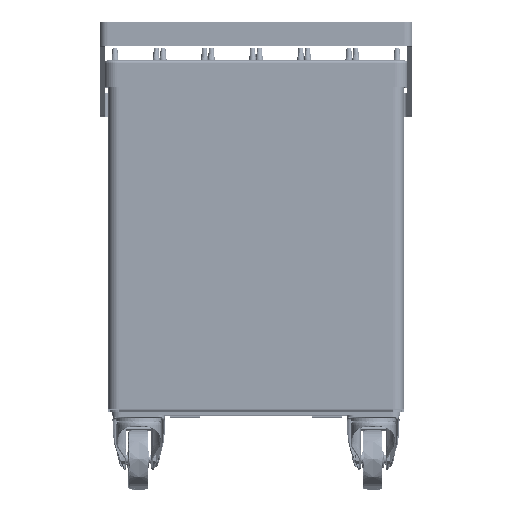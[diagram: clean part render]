
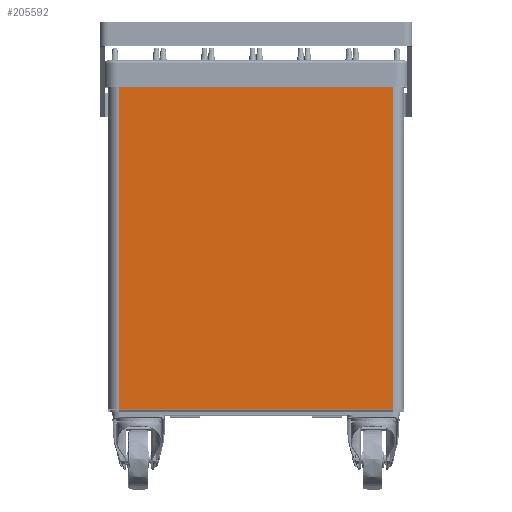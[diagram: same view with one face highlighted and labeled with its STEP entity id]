
A CAD part, top view. The second image highlights one B-rep face of the part: STEP entity #205592.
In plain terms, the highlighted planar face has unit normal (0, 0, 1).
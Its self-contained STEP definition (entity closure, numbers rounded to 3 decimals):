
#1048 = LINE ( 'NONE', #77880, #86331 ) ;
#1553 = EDGE_CURVE ( 'NONE', #139158, #221036, #87825, .T. ) ;
#8811 = CARTESIAN_POINT ( 'NONE',  ( 288.5, 850.5, 534.85 ) ) ;
#20852 = EDGE_LOOP ( 'NONE', ( #27572, #56983, #190086, #199905 ) ) ;
#26545 = PLANE ( 'NONE',  #166778 ) ;
#27309 = DIRECTION ( 'NONE',  ( 0., -1., 0. ) ) ;
#27572 = ORIENTED_EDGE ( 'NONE', *, *, #80757, .T. ) ;
#28051 = CARTESIAN_POINT ( 'NONE',  ( -288.5, 858., 534.85 ) ) ;
#29218 = VECTOR ( 'NONE', #27309, 1000. ) ;
#51941 = LINE ( 'NONE', #137784, #198662 ) ;
#56983 = ORIENTED_EDGE ( 'NONE', *, *, #1553, .T. ) ;
#76997 = CARTESIAN_POINT ( 'NONE',  ( -288.5, 168.5, 534.85 ) ) ;
#77880 = CARTESIAN_POINT ( 'NONE',  ( 288.5, 850.5, 534.85 ) ) ;
#80757 = EDGE_CURVE ( 'NONE', #215172, #139158, #1048, .T. ) ;
#86331 = VECTOR ( 'NONE', #146464, 1000. ) ;
#87825 = LINE ( 'NONE', #28051, #29218 ) ;
#92594 = CARTESIAN_POINT ( 'NONE',  ( 288.5, 168.5, 534.85 ) ) ;
#95798 = DIRECTION ( 'NONE',  ( -1., 0., 0. ) ) ;
#96551 = CARTESIAN_POINT ( 'NONE',  ( 0., 510.5, 534.85 ) ) ;
#110412 = VERTEX_POINT ( 'NONE', #92594 ) ;
#110560 = FACE_OUTER_BOUND ( 'NONE', #20852, .T. ) ;
#121961 = EDGE_CURVE ( 'NONE', #110412, #215172, #51941, .T. ) ;
#137784 = CARTESIAN_POINT ( 'NONE',  ( 288.5, 858., 534.85 ) ) ;
#139158 = VERTEX_POINT ( 'NONE', #179575 ) ;
#146464 = DIRECTION ( 'NONE',  ( -1., 0., 0. ) ) ;
#154221 = DIRECTION ( 'NONE',  ( 0., 1., 0. ) ) ;
#155460 = LINE ( 'NONE', #76997, #171716 ) ;
#166778 = AXIS2_PLACEMENT_3D ( 'NONE', #96551, #181481, #95798 ) ;
#171716 = VECTOR ( 'NONE', #196303, 1000. ) ;
#179575 = CARTESIAN_POINT ( 'NONE',  ( -288.5, 850.5, 534.85 ) ) ;
#181481 = DIRECTION ( 'NONE',  ( 0., 0., -1. ) ) ;
#190086 = ORIENTED_EDGE ( 'NONE', *, *, #221244, .T. ) ;
#196303 = DIRECTION ( 'NONE',  ( 1., 0., 0. ) ) ;
#198662 = VECTOR ( 'NONE', #154221, 1000. ) ;
#199905 = ORIENTED_EDGE ( 'NONE', *, *, #121961, .T. ) ;
#205592 = ADVANCED_FACE ( 'NONE', ( #110560 ), #26545, .F. ) ;
#214376 = CARTESIAN_POINT ( 'NONE',  ( -288.5, 168.5, 534.85 ) ) ;
#215172 = VERTEX_POINT ( 'NONE', #8811 ) ;
#221036 = VERTEX_POINT ( 'NONE', #214376 ) ;
#221244 = EDGE_CURVE ( 'NONE', #221036, #110412, #155460, .T. ) ;
